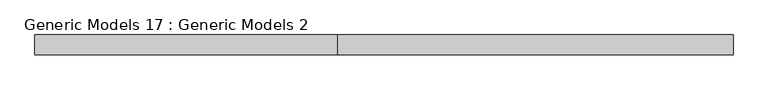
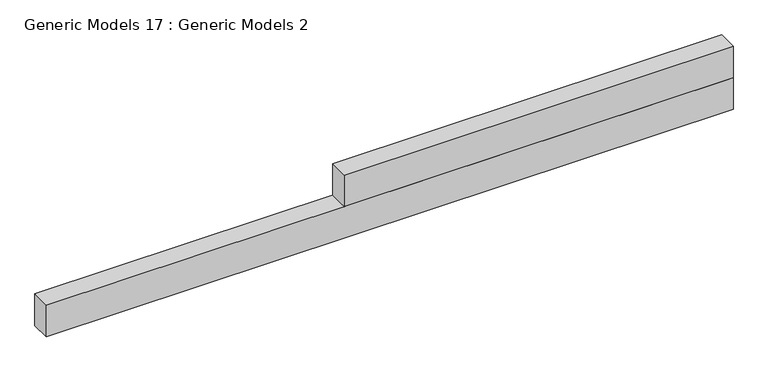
"""IFC4 building model written with IfcOpenShell, lengths in millimetres: proxy geometry, Generic Models 17 : Generic Models 2."""

from ifc_helpers import new_model, si_unit, frame, origin, place, context, project, spatial, polyline, outline, extrude, source, transform, mapped, element, save


def generic_models_17_generic_models_2_1d2f877d(model_context):
    return source(origin(), model_context, "Body", "SweptSolid", [
        extrude(outline(polyline([(-4200.0, -4047.6885624), (-11118.5171482, -4047.6885624), (-11118.5171482, -3849.4449025), (-4200.0, -3849.4449025), (-4200.0, -4047.6885624)])), frame((0.0, 0.0, 15000.0), z_axis=(0.0, 0.0, 1.0), x_axis=(1.0, 0.0, 0.0)), (0.0, 0.0, 1.0), 336.4),
        extrude(outline(polyline([(-4200.0, -4047.6885624), (-8118.5171482, -4047.6885624), (-8118.5171482, -3849.4449025), (-4200.0, -3849.4449025), (-4200.0, -4047.6885624)])), frame((0.0, 0.0, 15336.4), z_axis=(0.0, 0.0, 1.0), x_axis=(1.0, 0.0, 0.0)), (0.0, 0.0, 1.0), 336.4),
    ])


if __name__ == "__main__":
    model = new_model("IFC4")
    model_context = context("Model", 3, world=origin())
    ifc_project = project(units=[si_unit("LENGTHUNIT", "METRE", prefix="MILLI")], contexts=[model_context])
    site = spatial("IfcSite", under=ifc_project)
    building = spatial("IfcBuilding", under=site)
    placement = place(None, origin())
    generic_models_17_generic_models_2_shape = generic_models_17_generic_models_2_1d2f877d(model_context)
    element("IfcBuildingElementProxy", 1, Name="Generic Models 17 : Generic Models 2", ObjectType="Generic Models 17 : Generic Models 2", at=placement, inside=building, context=model_context, shape_type="MappedRepresentation", body=[
        mapped(generic_models_17_generic_models_2_shape, transform((0.0, 0.0, 0.0), x_axis=(1.0, 0.0, 0.0), y_axis=(0.0, 1.0, 0.0), z_axis=(0.0, 0.0, 1.0))),
    ])
    save(model, "model.ifc")
